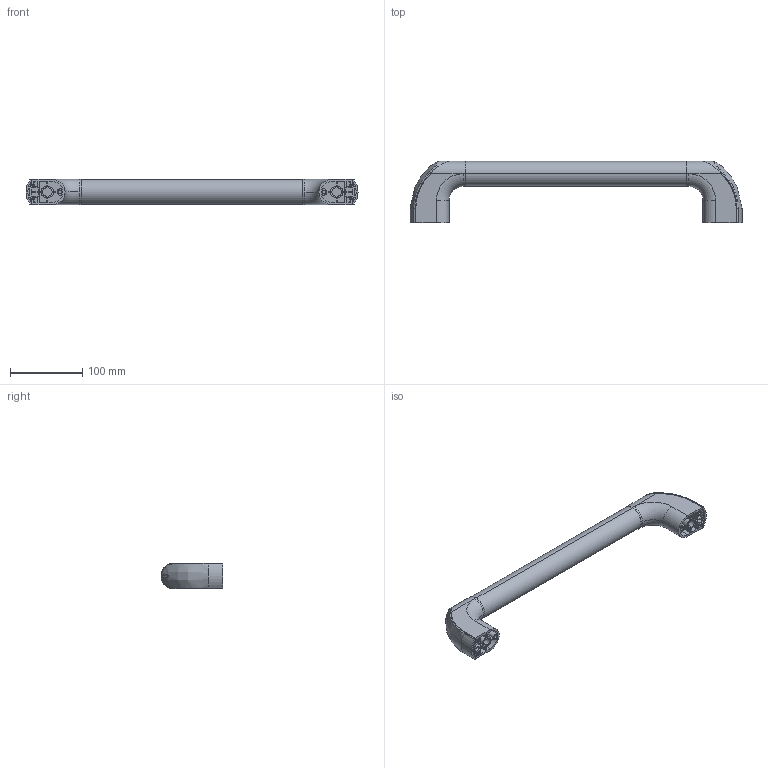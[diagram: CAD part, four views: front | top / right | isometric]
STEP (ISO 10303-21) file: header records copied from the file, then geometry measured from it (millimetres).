
FILE_DESCRIPTION (( 'STEP AP203' ), '1' );
FILE_NAME ('SK4-224-34-400C.STEP', '2017-12-20T07:55:07', ( 'admin' ), ( 'Microsoft' ), 'SwSTEP 2.0', 'SolidWorks 2015', '' );
FILE_SCHEMA (( 'CONFIG_CONTROL_DESIGN' ));
Length unit declared in the file: millimetre
Products named in the file (3): SK4-224-34釱赽; SK4-224-34-400C
Assembly tree (3 placements, depth 2):
  SK4-224-34-400C
    SK4-224-34釱赽  x2
    SK4-224-34-400C
Bounding box: 459 x 85.5 x 35 mm (x, y, z)
Volume: 531089.9 mm3; surface area: 86757.9 mm2
Topology: 3 solids, 3 shells, 272 faces, 714 edges, 460 vertices
Faces by surface type: plane 174, cylinder 56, bspline 38, torus 4
Entity records: 5919 total; most frequent: CARTESIAN_POINT 2306, ORIENTED_EDGE 716, DIRECTION 624, EDGE_CURVE 358, LINE 258, VECTOR 258, VERTEX_POINT 232, AXIS2_PLACEMENT_3D 183
